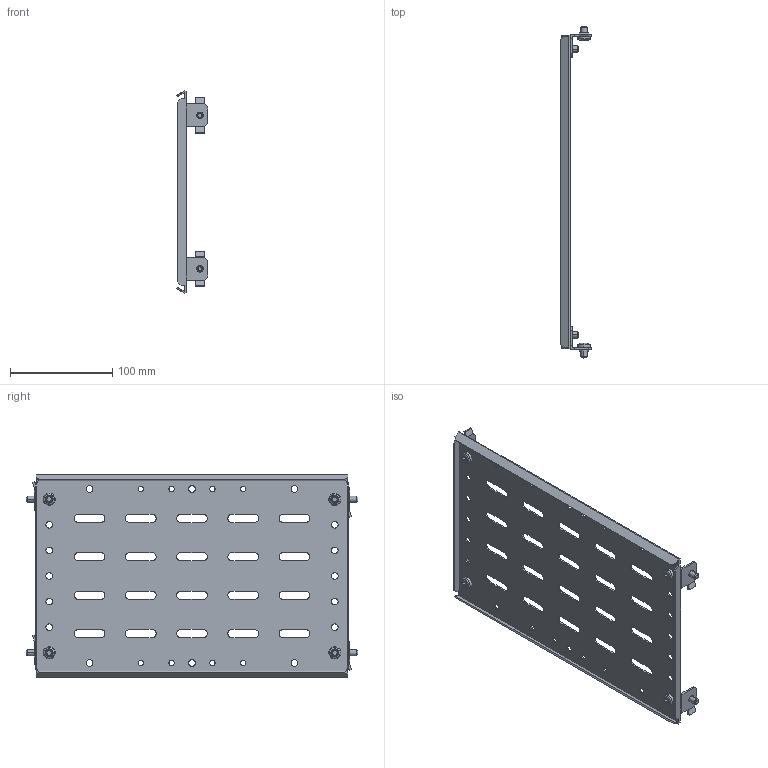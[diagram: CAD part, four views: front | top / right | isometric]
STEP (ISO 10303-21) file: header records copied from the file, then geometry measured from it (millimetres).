
FILE_DESCRIPTION (( 'STEP AP214' ), '1' );
FILE_NAME ('FO-00-SWF-020-040 Ïåðåãîðîäêà ñåêöèîíèðîâàíèÿ çàäíÿÿ 200x400 ìì.STEP', '2025-08-12T08:15:22', ( '' ), ( '' ), 'SwSTEP 2.0', 'SolidWorks 2023', '' );
FILE_SCHEMA (( 'AUTOMOTIVE_DESIGN' ));
Length unit declared in the file: millimetre
Products named in the file (1): FO-00-SWF-020-040 Перегородка секционирования задняя 200x400 мм
Bounding box: 30.52 x 324 x 197.66 mm (x, y, z)
Volume: 106089.7 mm3; surface area: 137607.6 mm2
Topology: 1 solids, 5 shells, 552 faces, 1498 edges, 976 vertices
Faces by surface type: cylinder 284, plane 212, cone 24, torus 24, sphere 8
Entity records: 17841 total; most frequent: CARTESIAN_POINT 3295, DIRECTION 3120, ORIENTED_EDGE 2996, EDGE_CURVE 1498, AXIS2_PLACEMENT_3D 1137, VERTEX_POINT 976, LINE 846, VECTOR 846
